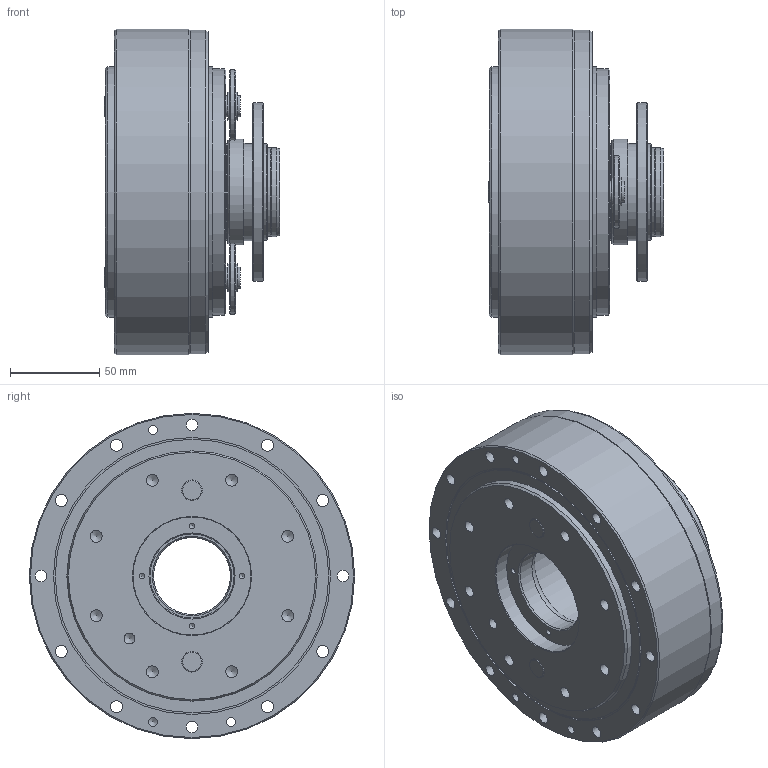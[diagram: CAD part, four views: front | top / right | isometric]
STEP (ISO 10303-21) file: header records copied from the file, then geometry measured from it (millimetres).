
FILE_DESCRIPTION((''),'2;1');
FILE_NAME('C:\Mike''s Jobs\4-MIKE-FROM-TH\Nabtesco\RV-Series\RV-27C.stp','2005-08-31T10:30:04',('Jeff Miles'),(''),'Autodesk Inventor 10','Autodesk Inventor 10','');
FILE_SCHEMA(('AUTOMOTIVE_DESIGN { 1 0 10303 214 1 1 1 1 }'));
Length unit declared in the file: millimetre
Products named in the file (7): RV-27C; RV-27C-Body; RV-27C-Gear; RV-27C-StandardCenterGear; RV-27C-Ball1; RV-27C-Ball2; AS 1420  - Metric M10 x 25
Assembly tree (83 placements, depth 2):
  RV-27C
    RV-27C-Body
    RV-27C-Gear  x2
    RV-27C-StandardCenterGear
    RV-27C-Ball1  x45
    RV-27C-Ball2  x30
    AS 1420  - Metric M10 x 25  x4
Bounding box: 98 x 182 x 182 mm (x, y, z)
Volume: 1436545.3 mm3; surface area: 183815.5 mm2
Topology: 83 solids, 83 shells, 308 faces, 722 edges, 469 vertices
Faces by surface type: sphere 75, bspline 74, plane 71, cylinder 45, cone 37, torus 6
Full cylindrical faces by diameter (mm): 10 x4, 12 x4, 15.7 x4, 16 x4, 40.6 x2, 43 x1, 47 x1, 49.4 x2, 50 x3, 54 x3, 54.5 x1, 59.4 x1, 61 x1, 61.006 x1, 65 x1, 66 x1, 100 x1, 138 x1, 140 x2, 149 x1, 153 x2, 155 x1, 159 x1, 181 x1, 182 x1
Entity records: 5784 total; most frequent: CARTESIAN_POINT 2021, DIRECTION 788, ORIENTED_EDGE 414, AXIS2_PLACEMENT_3D 388, EDGE_LOOP 384, EDGE_CURVE 207, VERTEX_POINT 203, FACE_BOUND 201
